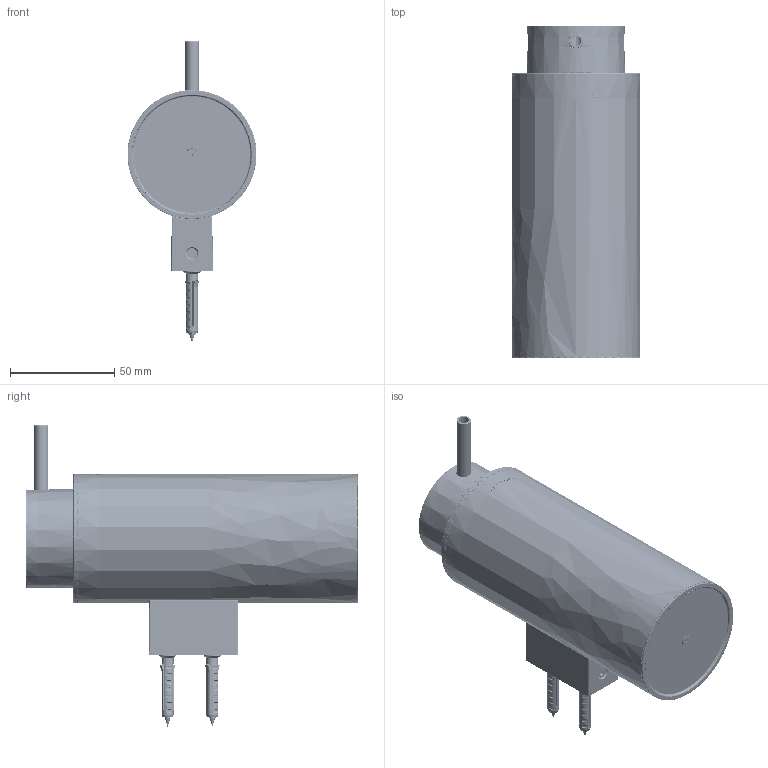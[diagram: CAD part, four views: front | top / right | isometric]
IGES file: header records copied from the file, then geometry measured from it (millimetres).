
Start section: SolidWorks IGES file using analytic representation for surfaces
Global section: file name: G:\Projects\New project\For Marketing\Cosmic\For DXF and IGS\2015-5-27\2510105VW.IGS; native system: SolidWorks 2010; preprocessor: SolidWorks 2010; author: linda; date: 150226.091052; units: millimetre
Bounding box: 62 x 159.5 x 145 mm (x, y, z)
Surface area: 182588.2 mm2 (no closed solid volume)
Topology: 0 solids, 0 shells, 3743 faces, 43656 edges, 43527 vertices
Faces by surface type: bspline 2540, revolution 1203
